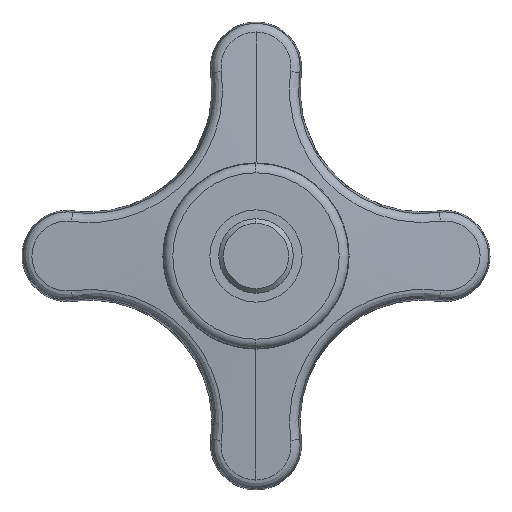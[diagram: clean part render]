
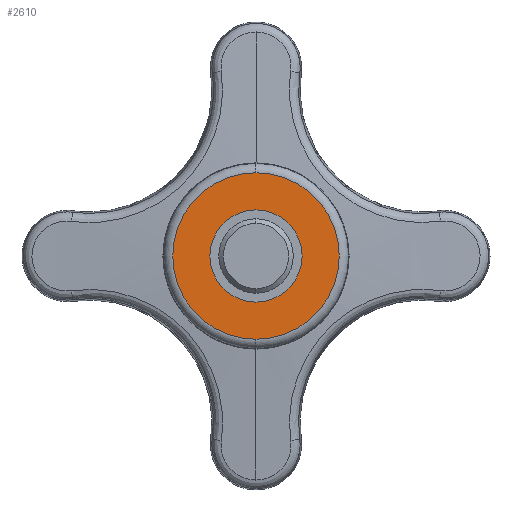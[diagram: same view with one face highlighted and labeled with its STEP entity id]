
A CAD part, front view. The second image highlights one B-rep face of the part: STEP entity #2610.
In plain terms, the highlighted planar face has unit normal (0, -1, 0).
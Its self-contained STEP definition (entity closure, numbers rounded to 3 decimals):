
#8 = DIRECTION ( 'NONE',  ( 0., -1., 0. ) ) ;
#34 = VERTEX_POINT ( 'NONE', #2627 ) ;
#54 = DIRECTION ( 'NONE',  ( 0., 1., 0. ) ) ;
#174 = CARTESIAN_POINT ( 'NONE',  ( 0., 0., 0. ) ) ;
#175 = AXIS2_PLACEMENT_3D ( 'NONE', #5092, #54, #3766 ) ;
#675 = EDGE_CURVE ( 'NONE', #5739, #34, #5648, .T. ) ;
#961 = DIRECTION ( 'NONE',  ( 0., 0., -1. ) ) ;
#1251 = CIRCLE ( 'NONE', #3046, 8.939 ) ;
#1407 = CARTESIAN_POINT ( 'NONE',  ( 0., 0., 0. ) ) ;
#1633 = CIRCLE ( 'NONE', #3635, 4.95 ) ;
#1746 = DIRECTION ( 'NONE',  ( 0., 0., -1. ) ) ;
#1834 = CARTESIAN_POINT ( 'NONE',  ( 0., 0., 0. ) ) ;
#2178 = DIRECTION ( 'NONE',  ( 0., -1., 0. ) ) ;
#2404 = ORIENTED_EDGE ( 'NONE', *, *, #2570, .F. ) ;
#2496 = VERTEX_POINT ( 'NONE', #4150 ) ;
#2560 = CARTESIAN_POINT ( 'NONE',  ( 0., 0., 0. ) ) ;
#2570 = EDGE_CURVE ( 'NONE', #2496, #5834, #4891, .T. ) ;
#2573 = AXIS2_PLACEMENT_3D ( 'NONE', #1834, #3168, #961 ) ;
#2610 = ADVANCED_FACE ( 'NONE', ( #4142, #4588 ), #3209, .F. ) ;
#2627 = CARTESIAN_POINT ( 'NONE',  ( 0., 0., 8.939 ) ) ;
#2728 = DIRECTION ( 'NONE',  ( 0., 0., 1. ) ) ;
#2915 = DIRECTION ( 'NONE',  ( 0., 0., 1. ) ) ;
#3046 = AXIS2_PLACEMENT_3D ( 'NONE', #1407, #8, #2728 ) ;
#3093 = ORIENTED_EDGE ( 'NONE', *, *, #3824, .F. ) ;
#3168 = DIRECTION ( 'NONE',  ( 0., -1., 0. ) ) ;
#3209 = PLANE ( 'NONE',  #175 ) ;
#3261 = EDGE_CURVE ( 'NONE', #34, #5739, #1251, .T. ) ;
#3635 = AXIS2_PLACEMENT_3D ( 'NONE', #2560, #2178, #1746 ) ;
#3649 = ORIENTED_EDGE ( 'NONE', *, *, #3261, .T. ) ;
#3684 = CARTESIAN_POINT ( 'NONE',  ( 0., 0., -4.95 ) ) ;
#3766 = DIRECTION ( 'NONE',  ( 0., 0., 1. ) ) ;
#3824 = EDGE_CURVE ( 'NONE', #5834, #2496, #1633, .T. ) ;
#3877 = CARTESIAN_POINT ( 'NONE',  ( 0., 0., -8.939 ) ) ;
#4142 = FACE_BOUND ( 'NONE', #4706, .T. ) ;
#4150 = CARTESIAN_POINT ( 'NONE',  ( 0., 0., 4.95 ) ) ;
#4467 = EDGE_LOOP ( 'NONE', ( #3649, #5166 ) ) ;
#4588 = FACE_OUTER_BOUND ( 'NONE', #4467, .T. ) ;
#4706 = EDGE_LOOP ( 'NONE', ( #3093, #2404 ) ) ;
#4891 = CIRCLE ( 'NONE', #2573, 4.95 ) ;
#5092 = CARTESIAN_POINT ( 'NONE',  ( 0., 0., 0. ) ) ;
#5166 = ORIENTED_EDGE ( 'NONE', *, *, #675, .T. ) ;
#5281 = DIRECTION ( 'NONE',  ( 0., -1., 0. ) ) ;
#5648 = CIRCLE ( 'NONE', #5832, 8.939 ) ;
#5739 = VERTEX_POINT ( 'NONE', #3877 ) ;
#5832 = AXIS2_PLACEMENT_3D ( 'NONE', #174, #5281, #2915 ) ;
#5834 = VERTEX_POINT ( 'NONE', #3684 ) ;
